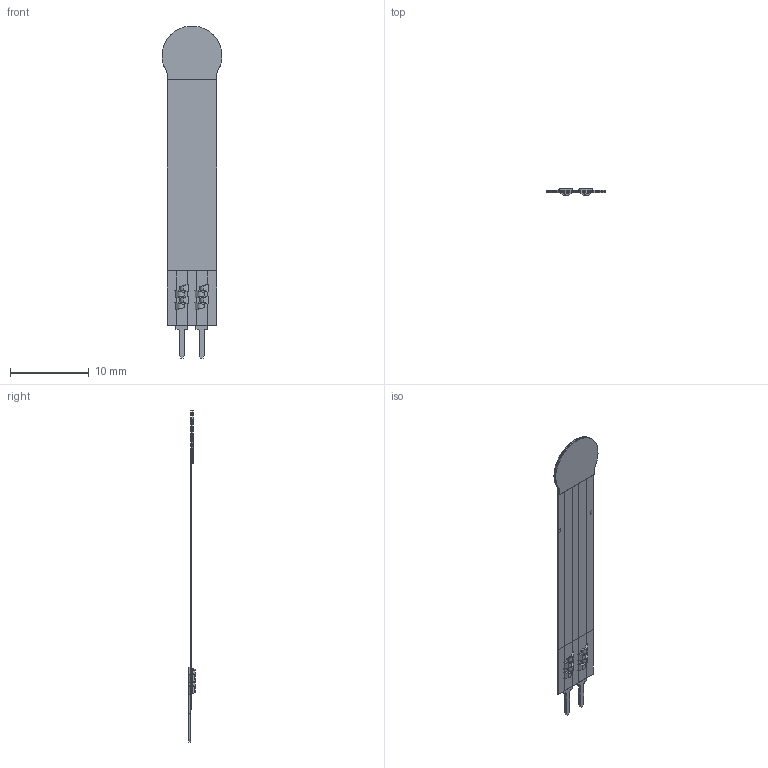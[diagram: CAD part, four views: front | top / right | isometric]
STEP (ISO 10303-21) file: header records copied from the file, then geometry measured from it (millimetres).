
FILE_DESCRIPTION (( 'STEP AP214' ), '1' );
FILE_NAME ('34-00007-FSR 400.STEP', '2011-09-09T22:21:59', ( ' ' ), ( '' ), 'SwSTEP 2.0', 'SolidWorks 2008', '' );
FILE_SCHEMA (( 'AUTOMOTIVE_DESIGN' ));
Length unit declared in the file: millimetre
Products named in the file (9): 30-00007-Gusset; 30-00007-Conductor; 30-00007-Spacer; 30-00007-SEMI-Substrate; 30-00007-SEMI; 30-00007-Cond-Substrate; 30-00007-RA; SolderTab; 34-00007-FSR 400
Assembly tree (9 placements, depth 2):
  34-00007-FSR 400
    30-00007-Spacer
    30-00007-SEMI-Substrate
    SolderTab  x2
    30-00007-SEMI
    30-00007-Conductor
    30-00007-Cond-Substrate
    30-00007-RA
    30-00007-Gusset
Bounding box: 7.62 x 0.85 x 42.27 mm (x, y, z)
Volume: 42.2 mm3; surface area: 1387.5 mm2
Topology: 13 solids, 13 shells, 322 faces, 760 edges, 464 vertices
Faces by surface type: plane 218, cylinder 72, bspline 32
Entity records: 7087 total; most frequent: CARTESIAN_POINT 1714, ORIENTED_EDGE 1078, DIRECTION 957, EDGE_CURVE 539, LINE 419, VECTOR 419, VERTEX_POINT 338, AXIS2_PLACEMENT_3D 269
